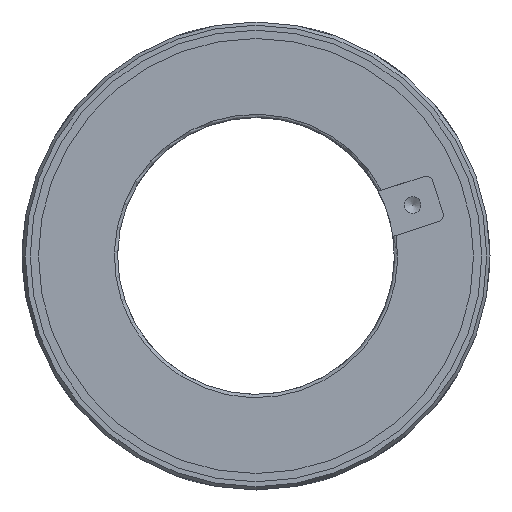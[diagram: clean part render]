
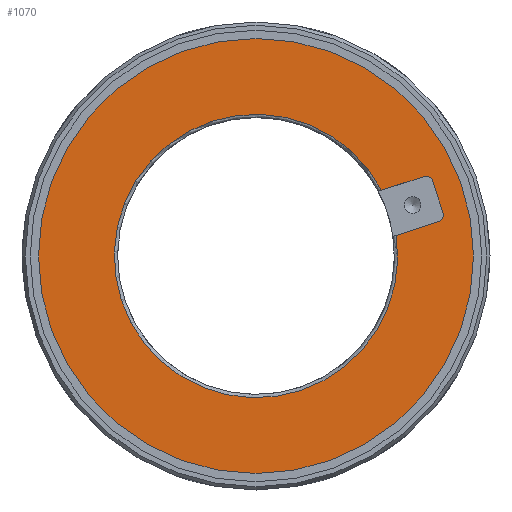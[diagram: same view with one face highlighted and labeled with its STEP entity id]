
A CAD part, front view. The second image highlights one B-rep face of the part: STEP entity #1070.
In plain terms, the highlighted planar face has unit normal (0, -1, 0).
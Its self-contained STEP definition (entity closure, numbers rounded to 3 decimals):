
#2 = CARTESIAN_POINT ( 'NONE',  ( 0., -127., 0. ) ) ;
#31 = ORIENTED_EDGE ( 'NONE', *, *, #1120, .T. ) ;
#111 = LINE ( 'NONE', #1333, #1754 ) ;
#144 = VECTOR ( 'NONE', #928, 1000. ) ;
#189 = CARTESIAN_POINT ( 'NONE',  ( 19.047, -127., 9.974 ) ) ;
#271 = AXIS2_PLACEMENT_3D ( 'NONE', #352, #2925, #2689 ) ;
#352 = CARTESIAN_POINT ( 'NONE',  ( -35.5, -127., 0. ) ) ;
#357 = DIRECTION ( 'NONE',  ( -0.951, 0., -0.309 ) ) ;
#361 = ORIENTED_EDGE ( 'NONE', *, *, #2269, .T. ) ;
#394 = CIRCLE ( 'NONE', #1203, 21.5 ) ;
#408 = CARTESIAN_POINT ( 'NONE',  ( 0., -127., 0. ) ) ;
#432 = ORIENTED_EDGE ( 'NONE', *, *, #3076, .T. ) ;
#600 = FACE_BOUND ( 'NONE', #2038, .T. ) ;
#645 = CARTESIAN_POINT ( 'NONE',  ( 17.28, -127., 1.829 ) ) ;
#784 = EDGE_CURVE ( 'NONE', #3402, #2402, #394, .T. ) ;
#880 = EDGE_CURVE ( 'NONE', #2154, #1835, #2659, .T. ) ;
#928 = DIRECTION ( 'NONE',  ( 0.309, 0., -0.951 ) ) ;
#980 = DIRECTION ( 'NONE',  ( 0., -1., 0. ) ) ;
#1043 = DIRECTION ( 'NONE',  ( 0., 0., -1. ) ) ;
#1070 = ADVANCED_FACE ( 'NONE', ( #600, #1260 ), #3577, .T. ) ;
#1098 = CARTESIAN_POINT ( 'NONE',  ( 0., -127., -33. ) ) ;
#1116 = CARTESIAN_POINT ( 'NONE',  ( 27.742, -127., 5.229 ) ) ;
#1120 = EDGE_CURVE ( 'NONE', #1534, #2154, #1473, .T. ) ;
#1196 = VECTOR ( 'NONE', #357, 1000. ) ;
#1203 = AXIS2_PLACEMENT_3D ( 'NONE', #408, #3610, #3301 ) ;
#1241 = CARTESIAN_POINT ( 'NONE',  ( 25.826, -127., 11.125 ) ) ;
#1260 = FACE_OUTER_BOUND ( 'NONE', #2989, .T. ) ;
#1333 = CARTESIAN_POINT ( 'NONE',  ( 15.055, -127., 8.677 ) ) ;
#1335 = DIRECTION ( 'NONE',  ( 0., 1., 0. ) ) ;
#1355 = ORIENTED_EDGE ( 'NONE', *, *, #880, .T. ) ;
#1473 = LINE ( 'NONE', #2639, #144 ) ;
#1534 = VERTEX_POINT ( 'NONE', #3031 ) ;
#1563 = AXIS2_PLACEMENT_3D ( 'NONE', #1241, #2415, #3561 ) ;
#1572 = AXIS2_PLACEMENT_3D ( 'NONE', #1632, #1335, #1043 ) ;
#1632 = CARTESIAN_POINT ( 'NONE',  ( 27.433, -127., 6.18 ) ) ;
#1646 = CARTESIAN_POINT ( 'NONE',  ( 21.271, -127., 3.126 ) ) ;
#1654 = LINE ( 'NONE', #645, #1196 ) ;
#1754 = VECTOR ( 'NONE', #2217, 1000. ) ;
#1835 = VERTEX_POINT ( 'NONE', #1116 ) ;
#1872 = AXIS2_PLACEMENT_3D ( 'NONE', #2, #980, #2442 ) ;
#1966 = EDGE_CURVE ( 'NONE', #1835, #3402, #1654, .T. ) ;
#1984 = ORIENTED_EDGE ( 'NONE', *, *, #2199, .T. ) ;
#2038 = EDGE_LOOP ( 'NONE', ( #2554, #2748, #361, #432, #31, #1355 ) ) ;
#2154 = VERTEX_POINT ( 'NONE', #2956 ) ;
#2199 = EDGE_CURVE ( 'NONE', #2813, #2813, #3556, .T. ) ;
#2217 = DIRECTION ( 'NONE',  ( 0.951, 0., 0.309 ) ) ;
#2269 = EDGE_CURVE ( 'NONE', #2402, #2876, #111, .T. ) ;
#2402 = VERTEX_POINT ( 'NONE', #189 ) ;
#2415 = DIRECTION ( 'NONE',  ( 0., 1., 0. ) ) ;
#2442 = DIRECTION ( 'NONE',  ( 0., 0., -1. ) ) ;
#2528 = CIRCLE ( 'NONE', #1563, 1. ) ;
#2554 = ORIENTED_EDGE ( 'NONE', *, *, #1966, .T. ) ;
#2639 = CARTESIAN_POINT ( 'NONE',  ( 26.468, -127., 12.385 ) ) ;
#2659 = CIRCLE ( 'NONE', #1572, 1. ) ;
#2689 = DIRECTION ( 'NONE',  ( 0., 0., -1. ) ) ;
#2748 = ORIENTED_EDGE ( 'NONE', *, *, #784, .T. ) ;
#2813 = VERTEX_POINT ( 'NONE', #1098 ) ;
#2876 = VERTEX_POINT ( 'NONE', #3595 ) ;
#2925 = DIRECTION ( 'NONE',  ( 0., -1., 0. ) ) ;
#2956 = CARTESIAN_POINT ( 'NONE',  ( 28.384, -127., 6.489 ) ) ;
#2989 = EDGE_LOOP ( 'NONE', ( #1984 ) ) ;
#3031 = CARTESIAN_POINT ( 'NONE',  ( 26.777, -127., 11.434 ) ) ;
#3076 = EDGE_CURVE ( 'NONE', #2876, #1534, #2528, .T. ) ;
#3301 = DIRECTION ( 'NONE',  ( 0., 0., -1. ) ) ;
#3402 = VERTEX_POINT ( 'NONE', #1646 ) ;
#3556 = CIRCLE ( 'NONE', #1872, 33. ) ;
#3561 = DIRECTION ( 'NONE',  ( 0., 0., -1. ) ) ;
#3577 = PLANE ( 'NONE',  #271 ) ;
#3595 = CARTESIAN_POINT ( 'NONE',  ( 25.517, -127., 12.076 ) ) ;
#3610 = DIRECTION ( 'NONE',  ( 0., 1., 0. ) ) ;
